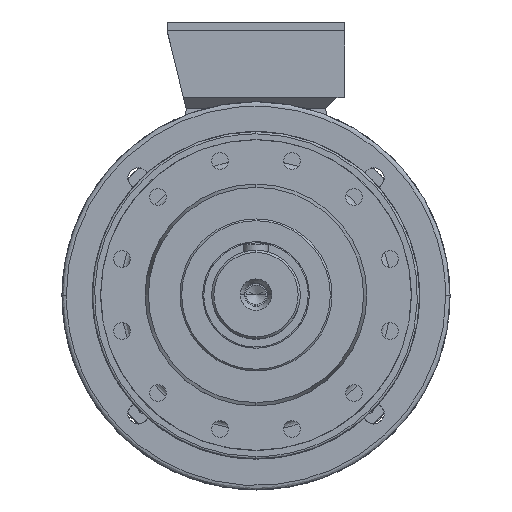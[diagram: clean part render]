
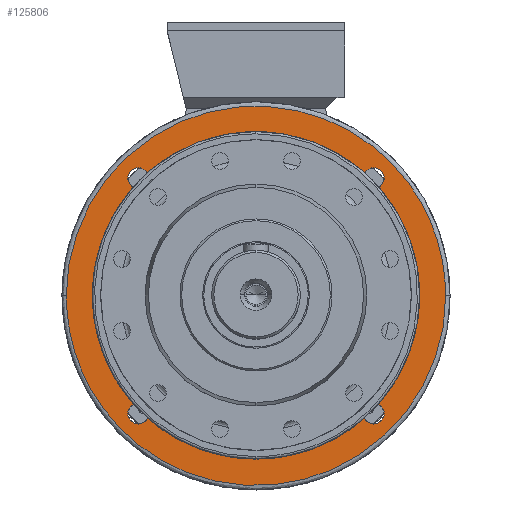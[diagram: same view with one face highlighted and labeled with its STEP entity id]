
A CAD part, top view. The second image highlights one B-rep face of the part: STEP entity #125806.
In plain terms, the highlighted planar face has unit normal (0, 0, 1).
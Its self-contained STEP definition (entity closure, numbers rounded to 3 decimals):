
#4659 =( BOUNDED_CURVE ( )  B_SPLINE_CURVE ( 3, ( #104253, #104304, #104237, #104305 ),
 .UNSPECIFIED., .F., .F. ) 
 B_SPLINE_CURVE_WITH_KNOTS ( ( 4, 4 ),
 ( 0., 0.5 ),
 .UNSPECIFIED. ) 
 CURVE ( )  GEOMETRIC_REPRESENTATION_ITEM ( )  RATIONAL_B_SPLINE_CURVE ( ( 1., 0.333, 0.333, 1. ) ) 
 REPRESENTATION_ITEM ( '' )  );
#7390 = EDGE_CURVE ( 'NONE', #35925, #35912, #4659, .T. ) ;
#7597 = EDGE_CURVE ( 'NONE', #36625, #36813, #115910, .T. ) ;
#7601 = EDGE_CURVE ( 'NONE', #36571, #36634, #115833, .T. ) ;
#7648 = EDGE_CURVE ( 'NONE', #37680, #35415, #115956, .T. ) ;
#7661 = EDGE_CURVE ( 'NONE', #36667, #36582, #116008, .T. ) ;
#7664 = EDGE_CURVE ( 'NONE', #36591, #36497, #115944, .T. ) ;
#12609 = ORIENTED_EDGE ( 'NONE', *, *, #7648, .T. ) ;
#12702 = ORIENTED_EDGE ( 'NONE', *, *, #118819, .F. ) ;
#12740 = ORIENTED_EDGE ( 'NONE', *, *, #7664, .T. ) ;
#12742 = ORIENTED_EDGE ( 'NONE', *, *, #118797, .T. ) ;
#12787 = ORIENTED_EDGE ( 'NONE', *, *, #7601, .T. ) ;
#12791 = ORIENTED_EDGE ( 'NONE', *, *, #118816, .T. ) ;
#12806 = ORIENTED_EDGE ( 'NONE', *, *, #118804, .T. ) ;
#12812 = ORIENTED_EDGE ( 'NONE', *, *, #7661, .T. ) ;
#12815 = ORIENTED_EDGE ( 'NONE', *, *, #118835, .T. ) ;
#12837 = ORIENTED_EDGE ( 'NONE', *, *, #7597, .T. ) ;
#12845 = ORIENTED_EDGE ( 'NONE', *, *, #118808, .T. ) ;
#12872 = ORIENTED_EDGE ( 'NONE', *, *, #7390, .F. ) ;
#22254 = AXIS2_PLACEMENT_3D ( 'NONE', #103895, #103902, #103946 ) ;
#22265 = AXIS2_PLACEMENT_3D ( 'NONE', #103965, #103911, #103948 ) ;
#22297 = AXIS2_PLACEMENT_3D ( 'NONE', #106456, #106412, #106450 ) ;
#22319 = AXIS2_PLACEMENT_3D ( 'NONE', #106492, #106543, #106527 ) ;
#22331 = AXIS2_PLACEMENT_3D ( 'NONE', #106490, #106512, #106486 ) ;
#35415 = VERTEX_POINT ( 'NONE', #44342 ) ;
#35912 = VERTEX_POINT ( 'NONE', #41735 ) ;
#35925 = VERTEX_POINT ( 'NONE', #41687 ) ;
#36089 = PLANE ( 'NONE',  #82984 ) ;
#36092 = DIRECTION ( 'NONE',  ( 1., 0., 0. ) ) ;
#36125 = CARTESIAN_POINT ( 'NONE',  ( 0., 122., -116.5 ) ) ;
#36193 = DIRECTION ( 'NONE',  ( 0., 0., 1. ) ) ;
#36497 = VERTEX_POINT ( 'NONE', #42286 ) ;
#36571 = VERTEX_POINT ( 'NONE', #42326 ) ;
#36582 = VERTEX_POINT ( 'NONE', #42306 ) ;
#36591 = VERTEX_POINT ( 'NONE', #42252 ) ;
#36625 = VERTEX_POINT ( 'NONE', #42294 ) ;
#36634 = VERTEX_POINT ( 'NONE', #42401 ) ;
#36667 = VERTEX_POINT ( 'NONE', #42269 ) ;
#36813 = VERTEX_POINT ( 'NONE', #42581 ) ;
#37680 = VERTEX_POINT ( 'NONE', #42899 ) ;
#41687 = CARTESIAN_POINT ( 'NONE',  ( 171., 0., -116.5 ) ) ;
#41735 = CARTESIAN_POINT ( 'NONE',  ( -171., 0., -116.5 ) ) ;
#42252 = CARTESIAN_POINT ( 'NONE',  ( -106.066, 96.566, -116.5 ) ) ;
#42269 = CARTESIAN_POINT ( 'NONE',  ( 106.066, -115.566, -116.5 ) ) ;
#42286 = CARTESIAN_POINT ( 'NONE',  ( -106.066, 115.566, -116.5 ) ) ;
#42294 = CARTESIAN_POINT ( 'NONE',  ( 115.566, 106.066, -116.5 ) ) ;
#42306 = CARTESIAN_POINT ( 'NONE',  ( 106.066, -96.566, -116.5 ) ) ;
#42326 = CARTESIAN_POINT ( 'NONE',  ( -96.566, -106.066, -116.5 ) ) ;
#42401 = CARTESIAN_POINT ( 'NONE',  ( -115.566, -106.066, -116.5 ) ) ;
#42581 = CARTESIAN_POINT ( 'NONE',  ( 96.566, 106.066, -116.5 ) ) ;
#42899 = CARTESIAN_POINT ( 'NONE',  ( -122., 0., -116.5 ) ) ;
#44342 = CARTESIAN_POINT ( 'NONE',  ( 122., 0., -116.5 ) ) ;
#73402 = FACE_BOUND ( 'NONE', #111871, .T. ) ;
#73405 = FACE_BOUND ( 'NONE', #111328, .T. ) ;
#73410 = FACE_OUTER_BOUND ( 'NONE', #112197, .T. ) ;
#73420 = FACE_BOUND ( 'NONE', #111896, .T. ) ;
#73440 = FACE_BOUND ( 'NONE', #111342, .T. ) ;
#73446 = FACE_BOUND ( 'NONE', #111721, .T. ) ;
#79356 =( BOUNDED_CURVE ( )  B_SPLINE_CURVE ( 3, ( #90803, #89198, #89187, #89212 ),
 .UNSPECIFIED., .F., .F. ) 
 B_SPLINE_CURVE_WITH_KNOTS ( ( 4, 4 ),
 ( 0.5, 1. ),
 .UNSPECIFIED. ) 
 CURVE ( )  GEOMETRIC_REPRESENTATION_ITEM ( )  RATIONAL_B_SPLINE_CURVE ( ( 1., 0.333, 0.333, 1. ) ) 
 REPRESENTATION_ITEM ( '' )  );
#82984 = AXIS2_PLACEMENT_3D ( 'NONE', #36125, #36193, #36092 ) ;
#89187 = CARTESIAN_POINT ( 'NONE',  ( 171., 342., -116.5 ) ) ;
#89198 = CARTESIAN_POINT ( 'NONE',  ( -171., 342., -116.5 ) ) ;
#89212 = CARTESIAN_POINT ( 'NONE',  ( 171., 0., -116.5 ) ) ;
#89215 = DIRECTION ( 'NONE',  ( 0., 1., 0. ) ) ;
#89230 = CARTESIAN_POINT ( 'NONE',  ( -106.066, 106.066, -116.5 ) ) ;
#89239 = DIRECTION ( 'NONE',  ( 0., 0., -1. ) ) ;
#89243 = DIRECTION ( 'NONE',  ( 0., 1., 0. ) ) ;
#90674 = CARTESIAN_POINT ( 'NONE',  ( 106.066, 106.066, -116.5 ) ) ;
#90703 = DIRECTION ( 'NONE',  ( 0., 0., -1. ) ) ;
#90725 = DIRECTION ( 'NONE',  ( -1., 0., 0. ) ) ;
#90747 = DIRECTION ( 'NONE',  ( 0., 0., -1. ) ) ;
#90748 = DIRECTION ( 'NONE',  ( -1., 0., 0. ) ) ;
#90755 = DIRECTION ( 'NONE',  ( -1., 0., 0. ) ) ;
#90765 = DIRECTION ( 'NONE',  ( 0., 0., -1. ) ) ;
#90771 = CARTESIAN_POINT ( 'NONE',  ( -106.066, -106.066, -116.5 ) ) ;
#90796 = CARTESIAN_POINT ( 'NONE',  ( 0., 0., -116.5 ) ) ;
#90803 = CARTESIAN_POINT ( 'NONE',  ( -171., 0., -116.5 ) ) ;
#90810 = CARTESIAN_POINT ( 'NONE',  ( 106.066, -106.066, -116.5 ) ) ;
#90819 = DIRECTION ( 'NONE',  ( 0., 0., -1. ) ) ;
#103895 = CARTESIAN_POINT ( 'NONE',  ( 106.066, 106.066, -116.5 ) ) ;
#103902 = DIRECTION ( 'NONE',  ( 0., 0., -1. ) ) ;
#103911 = DIRECTION ( 'NONE',  ( 0., 0., -1. ) ) ;
#103946 = DIRECTION ( 'NONE',  ( -1., 0., 0. ) ) ;
#103948 = DIRECTION ( 'NONE',  ( -1., 0., 0. ) ) ;
#103965 = CARTESIAN_POINT ( 'NONE',  ( -106.066, -106.066, -116.5 ) ) ;
#104237 = CARTESIAN_POINT ( 'NONE',  ( -171., -342., -116.5 ) ) ;
#104253 = CARTESIAN_POINT ( 'NONE',  ( 171., 0., -116.5 ) ) ;
#104304 = CARTESIAN_POINT ( 'NONE',  ( 171., -342., -116.5 ) ) ;
#104305 = CARTESIAN_POINT ( 'NONE',  ( -171., 0., -116.5 ) ) ;
#106412 = DIRECTION ( 'NONE',  ( 0., 0., -1. ) ) ;
#106450 = DIRECTION ( 'NONE',  ( -1., 0., 0. ) ) ;
#106456 = CARTESIAN_POINT ( 'NONE',  ( 0., 0., -116.5 ) ) ;
#106486 = DIRECTION ( 'NONE',  ( 0., 1., 0. ) ) ;
#106490 = CARTESIAN_POINT ( 'NONE',  ( 106.066, -106.066, -116.5 ) ) ;
#106492 = CARTESIAN_POINT ( 'NONE',  ( -106.066, 106.066, -116.5 ) ) ;
#106512 = DIRECTION ( 'NONE',  ( 0., 0., -1. ) ) ;
#106527 = DIRECTION ( 'NONE',  ( 0., 1., 0. ) ) ;
#106543 = DIRECTION ( 'NONE',  ( 0., 0., -1. ) ) ;
#108796 = AXIS2_PLACEMENT_3D ( 'NONE', #90810, #90747, #89215 ) ;
#108808 = AXIS2_PLACEMENT_3D ( 'NONE', #89230, #89239, #89243 ) ;
#108821 = AXIS2_PLACEMENT_3D ( 'NONE', #90674, #90703, #90725 ) ;
#108834 = AXIS2_PLACEMENT_3D ( 'NONE', #90771, #90765, #90755 ) ;
#108837 = AXIS2_PLACEMENT_3D ( 'NONE', #90796, #90819, #90748 ) ;
#111328 = EDGE_LOOP ( 'NONE', ( #12742, #12837 ) ) ;
#111342 = EDGE_LOOP ( 'NONE', ( #12845, #12787 ) ) ;
#111721 = EDGE_LOOP ( 'NONE', ( #12815, #12740 ) ) ;
#111871 = EDGE_LOOP ( 'NONE', ( #12791, #12812 ) ) ;
#111896 = EDGE_LOOP ( 'NONE', ( #12609, #12806 ) ) ;
#112197 = EDGE_LOOP ( 'NONE', ( #12872, #12702 ) ) ;
#115833 = CIRCLE ( 'NONE', #22265, 9.5 ) ;
#115910 = CIRCLE ( 'NONE', #22254, 9.5 ) ;
#115944 = CIRCLE ( 'NONE', #22319, 9.5 ) ;
#115956 = CIRCLE ( 'NONE', #22297, 122. ) ;
#116008 = CIRCLE ( 'NONE', #22331, 9.5 ) ;
#117112 = CIRCLE ( 'NONE', #108821, 9.5 ) ;
#117164 = CIRCLE ( 'NONE', #108796, 9.5 ) ;
#117168 = CIRCLE ( 'NONE', #108837, 122. ) ;
#117176 = CIRCLE ( 'NONE', #108808, 9.5 ) ;
#117181 = CIRCLE ( 'NONE', #108834, 9.5 ) ;
#118797 = EDGE_CURVE ( 'NONE', #36813, #36625, #117112, .T. ) ;
#118804 = EDGE_CURVE ( 'NONE', #35415, #37680, #117168, .T. ) ;
#118808 = EDGE_CURVE ( 'NONE', #36634, #36571, #117181, .T. ) ;
#118816 = EDGE_CURVE ( 'NONE', #36582, #36667, #117164, .T. ) ;
#118819 = EDGE_CURVE ( 'NONE', #35912, #35925, #79356, .T. ) ;
#118835 = EDGE_CURVE ( 'NONE', #36497, #36591, #117176, .T. ) ;
#125806 = ADVANCED_FACE ( 'NONE', ( #73410, #73420, #73446, #73440, #73402, #73405 ), #36089, .T. ) ;
